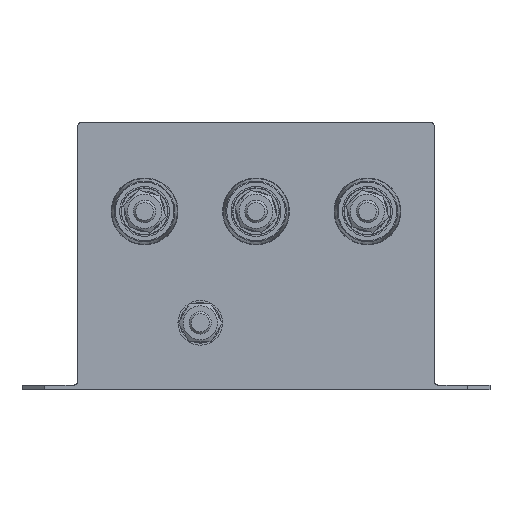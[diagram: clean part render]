
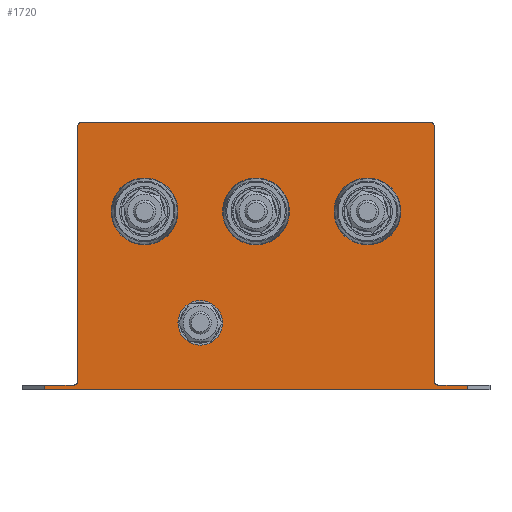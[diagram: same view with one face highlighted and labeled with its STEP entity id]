
A CAD part, left-side view. The second image highlights one B-rep face of the part: STEP entity #1720.
In plain terms, the highlighted planar face has unit normal (-1, 0, 0).
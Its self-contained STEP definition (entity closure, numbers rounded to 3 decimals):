
#189=CARTESIAN_POINT('',(-150.,25.,-98.25));
#190=VERTEX_POINT('',#189);
#191=CARTESIAN_POINT('',(-150.,25.,-90.));
#192=DIRECTION('',(1.0,0.0,0.0));
#193=DIRECTION('',(0.0,0.0,-1.0));
#194=AXIS2_PLACEMENT_3D('',#191,#192,#193);
#195=CIRCLE('',#194,8.25);
#196=EDGE_CURVE('',#190,#190,#195,.T.);
#1570=CARTESIAN_POINT('',(-150.,80.0,-2.0));
#1571=VERTEX_POINT('',#1570);
#1578=CARTESIAN_POINT('',(-150.,78.0,0.0));
#1579=VERTEX_POINT('',#1578);
#1580=CARTESIAN_POINT('',(-150.0,78.0,-2.0));
#1581=DIRECTION('',(1.0,0.0,0.0));
#1582=DIRECTION('',(0.0,0.707,0.707));
#1583=AXIS2_PLACEMENT_3D('',#1580,#1581,#1582);
#1584=CIRCLE('',#1583,2.0);
#1585=EDGE_CURVE('',#1571,#1579,#1584,.T.);
#1602=CARTESIAN_POINT('',(-150.,-78.,0.0));
#1603=VERTEX_POINT('',#1602);
#1604=CARTESIAN_POINT('',(-150.,-78.,0.0));
#1605=DIRECTION('',(0.0,1.0,0.0));
#1606=VECTOR('',#1605,156.0);
#1607=LINE('',#1604,#1606);
#1608=EDGE_CURVE('',#1603,#1579,#1607,.T.);
#1627=CARTESIAN_POINT('',(-150.,80.0,0.0));
#1628=DIRECTION('',(-1.0,0.0,0.0));
#1629=DIRECTION('',(0.0,0.0,1.0));
#1630=AXIS2_PLACEMENT_3D('',#1627,#1628,#1629);
#1631=PLANE('',#1630);
#1632=ORIENTED_EDGE('',*,*,#1585,.F.);
#1633=CARTESIAN_POINT('',(-150.,80.0,-116.));
#1634=VERTEX_POINT('',#1633);
#1635=CARTESIAN_POINT('',(-150.,80.0,-2.0));
#1636=DIRECTION('',(0.0,0.0,-1.0));
#1637=VECTOR('',#1636,114.);
#1638=LINE('',#1635,#1637);
#1639=EDGE_CURVE('',#1571,#1634,#1638,.T.);
#1640=ORIENTED_EDGE('',*,*,#1639,.T.);
#1641=CARTESIAN_POINT('',(-150.,82.0,-118.0));
#1642=VERTEX_POINT('',#1641);
#1643=CARTESIAN_POINT('',(-150.,82.0,-116.));
#1644=DIRECTION('',(-1.0,0.0,0.0));
#1645=DIRECTION('',(0.0,-0.707,-0.707));
#1646=AXIS2_PLACEMENT_3D('',#1643,#1644,#1645);
#1647=CIRCLE('',#1646,2.0);
#1648=EDGE_CURVE('',#1642,#1634,#1647,.T.);
#1649=ORIENTED_EDGE('',*,*,#1648,.F.);
#1650=CARTESIAN_POINT('',(-150.,95.0,-118.0));
#1651=VERTEX_POINT('',#1650);
#1652=CARTESIAN_POINT('',(-150.,82.0,-118.0));
#1653=DIRECTION('',(0.0,1.0,0.0));
#1654=VECTOR('',#1653,13.0);
#1655=LINE('',#1652,#1654);
#1656=EDGE_CURVE('',#1642,#1651,#1655,.T.);
#1657=ORIENTED_EDGE('',*,*,#1656,.T.);
#1658=CARTESIAN_POINT('',(-150.,95.0,-120.0));
#1659=VERTEX_POINT('',#1658);
#1660=CARTESIAN_POINT('',(-150.,95.0,-120.0));
#1661=DIRECTION('',(0.0,0.0,1.0));
#1662=VECTOR('',#1661,2.0);
#1663=LINE('',#1660,#1662);
#1664=EDGE_CURVE('',#1659,#1651,#1663,.T.);
#1665=ORIENTED_EDGE('',*,*,#1664,.F.);
#1666=CARTESIAN_POINT('',(-150.,-95.0,-120.0));
#1667=VERTEX_POINT('',#1666);
#1668=CARTESIAN_POINT('',(-150.,-95.0,-120.0));
#1669=DIRECTION('',(0.0,1.0,0.0));
#1670=VECTOR('',#1669,190.0);
#1671=LINE('',#1668,#1670);
#1672=EDGE_CURVE('',#1667,#1659,#1671,.T.);
#1673=ORIENTED_EDGE('',*,*,#1672,.F.);
#1674=CARTESIAN_POINT('',(-150.,-95.0,-118.0));
#1675=VERTEX_POINT('',#1674);
#1676=CARTESIAN_POINT('',(-150.,-95.0,-118.0));
#1677=DIRECTION('',(0.0,0.0,-1.0));
#1678=VECTOR('',#1677,2.0);
#1679=LINE('',#1676,#1678);
#1680=EDGE_CURVE('',#1675,#1667,#1679,.T.);
#1681=ORIENTED_EDGE('',*,*,#1680,.F.);
#1682=CARTESIAN_POINT('',(-150.,-82.,-118.0));
#1683=VERTEX_POINT('',#1682);
#1684=CARTESIAN_POINT('',(-150.,-95.0,-118.0));
#1685=DIRECTION('',(0.0,1.0,0.0));
#1686=VECTOR('',#1685,13.);
#1687=LINE('',#1684,#1686);
#1688=EDGE_CURVE('',#1675,#1683,#1687,.T.);
#1689=ORIENTED_EDGE('',*,*,#1688,.T.);
#1690=CARTESIAN_POINT('',(-150.,-80.,-116.));
#1691=VERTEX_POINT('',#1690);
#1692=CARTESIAN_POINT('',(-150.,-82.,-116.));
#1693=DIRECTION('',(-1.0,0.0,0.0));
#1694=DIRECTION('',(0.0,0.707,-0.707));
#1695=AXIS2_PLACEMENT_3D('',#1692,#1693,#1694);
#1696=CIRCLE('',#1695,2.0);
#1697=EDGE_CURVE('',#1691,#1683,#1696,.T.);
#1698=ORIENTED_EDGE('',*,*,#1697,.F.);
#1699=CARTESIAN_POINT('',(-150.,-80.,-2.0));
#1700=VERTEX_POINT('',#1699);
#1701=CARTESIAN_POINT('',(-150.,-80.,-2.0));
#1702=DIRECTION('',(0.0,0.0,-1.0));
#1703=VECTOR('',#1702,114.);
#1704=LINE('',#1701,#1703);
#1705=EDGE_CURVE('',#1700,#1691,#1704,.T.);
#1706=ORIENTED_EDGE('',*,*,#1705,.F.);
#1707=CARTESIAN_POINT('',(-150.,-78.,-2.0));
#1708=DIRECTION('',(1.0,0.0,0.0));
#1709=DIRECTION('',(0.0,-0.707,0.707));
#1710=AXIS2_PLACEMENT_3D('',#1707,#1708,#1709);
#1711=CIRCLE('',#1710,2.0);
#1712=EDGE_CURVE('',#1603,#1700,#1711,.T.);
#1713=ORIENTED_EDGE('',*,*,#1712,.F.);
#1714=ORIENTED_EDGE('',*,*,#1608,.T.);
#1715=EDGE_LOOP('',(#1632,#1640,#1649,#1657,#1665,#1673,#1681,#1689,#1698,#1706,#1713,#1714));
#1716=FACE_OUTER_BOUND('',#1715,.T.);
#1717=ORIENTED_EDGE('',*,*,#196,.T.);
#1718=EDGE_LOOP('',(#1717));
#1719=FACE_BOUND('',#1718,.T.);
#1720=ADVANCED_FACE('',(#1716,#1719),#1631,.T.);
